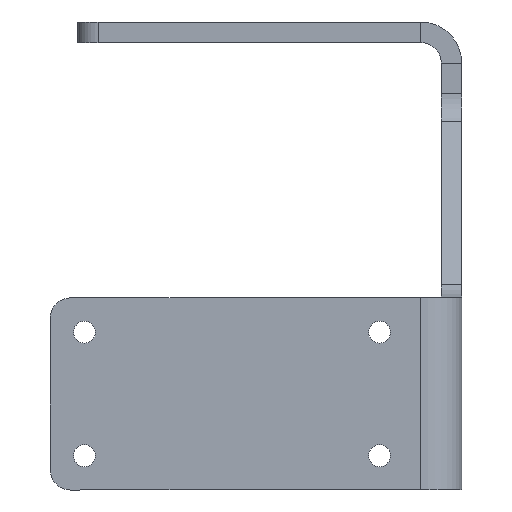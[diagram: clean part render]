
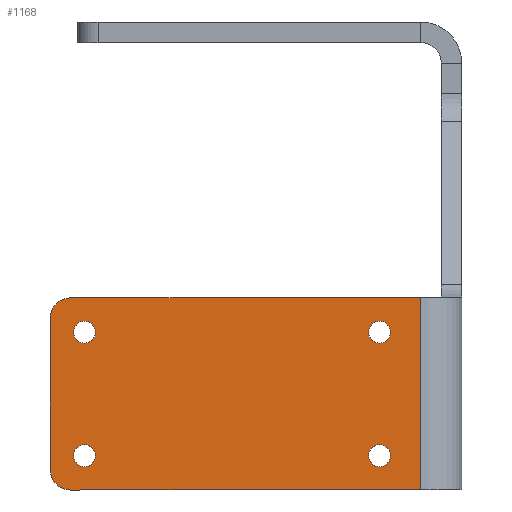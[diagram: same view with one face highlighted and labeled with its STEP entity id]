
A CAD part, front view. The second image highlights one B-rep face of the part: STEP entity #1168.
In plain terms, the highlighted planar face has unit normal (0, -1, 0).
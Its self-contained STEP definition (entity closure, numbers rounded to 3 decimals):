
#14 = DIRECTION ( 'NONE',  ( -1., 0., 0. ) ) ;
#48 = DIRECTION ( 'NONE',  ( 0., 1., 0. ) ) ;
#64 = LINE ( 'NONE', #2875, #1581 ) ;
#142 = AXIS2_PLACEMENT_3D ( 'NONE', #1949, #1640, #1326 ) ;
#156 = ORIENTED_EDGE ( 'NONE', *, *, #2878, .F. ) ;
#178 = CIRCLE ( 'NONE', #1759, 3. ) ;
#193 = ORIENTED_EDGE ( 'NONE', *, *, #1611, .T. ) ;
#202 = AXIS2_PLACEMENT_3D ( 'NONE', #377, #48, #2863 ) ;
#214 = DIRECTION ( 'NONE',  ( 1., 0., 0. ) ) ;
#230 = ORIENTED_EDGE ( 'NONE', *, *, #693, .T. ) ;
#242 = LINE ( 'NONE', #3065, #1194 ) ;
#272 = AXIS2_PLACEMENT_3D ( 'NONE', #1182, #3032, #2709 ) ;
#315 = FACE_BOUND ( 'NONE', #527, .T. ) ;
#319 = CARTESIAN_POINT ( 'NONE',  ( -21.5, -99.825, -60.203 ) ) ;
#327 = EDGE_CURVE ( 'NONE', #2153, #3075, #2723, .T. ) ;
#338 = DIRECTION ( 'NONE',  ( 0., 1., 0. ) ) ;
#377 = CARTESIAN_POINT ( 'NONE',  ( 21.5, -99.825, -60.203 ) ) ;
#389 = VERTEX_POINT ( 'NONE', #1308 ) ;
#393 = CARTESIAN_POINT ( 'NONE',  ( -23.5, -99.825, -40.203 ) ) ;
#404 = FACE_BOUND ( 'NONE', #1809, .T. ) ;
#430 = CIRCLE ( 'NONE', #272, 1.6 ) ;
#492 = ORIENTED_EDGE ( 'NONE', *, *, #2701, .T. ) ;
#527 = EDGE_LOOP ( 'NONE', ( #2860, #193 ) ) ;
#539 = CARTESIAN_POINT ( 'NONE',  ( 30.5, -99.825, -65.203 ) ) ;
#565 = FACE_BOUND ( 'NONE', #3058, .T. ) ;
#648 = AXIS2_PLACEMENT_3D ( 'NONE', #663, #338, #14 ) ;
#663 = CARTESIAN_POINT ( 'NONE',  ( 30.5, -99.825, -65.203 ) ) ;
#668 = CIRCLE ( 'NONE', #1844, 1.6 ) ;
#674 = CIRCLE ( 'NONE', #1052, 1.6 ) ;
#687 = DIRECTION ( 'NONE',  ( -1., 0., 0. ) ) ;
#693 = EDGE_CURVE ( 'NONE', #2904, #698, #2783, .T. ) ;
#698 = VERTEX_POINT ( 'NONE', #1043 ) ;
#805 = FACE_BOUND ( 'NONE', #1220, .T. ) ;
#817 = CARTESIAN_POINT ( 'NONE',  ( -23.1, -99.825, -42.203 ) ) ;
#819 = DIRECTION ( 'NONE',  ( -1., 0., 0. ) ) ;
#826 = ORIENTED_EDGE ( 'NONE', *, *, #2269, .T. ) ;
#828 = CARTESIAN_POINT ( 'NONE',  ( -26.5, -99.825, -62.203 ) ) ;
#854 = CARTESIAN_POINT ( 'NONE',  ( 27.5, -99.825, -65.203 ) ) ;
#863 = LINE ( 'NONE', #539, #1346 ) ;
#896 = CARTESIAN_POINT ( 'NONE',  ( -23.5, -99.825, -62.203 ) ) ;
#946 = AXIS2_PLACEMENT_3D ( 'NONE', #319, #3132, #2819 ) ;
#967 = FACE_OUTER_BOUND ( 'NONE', #2294, .T. ) ;
#968 = ORIENTED_EDGE ( 'NONE', *, *, #2302, .T. ) ;
#973 = ORIENTED_EDGE ( 'NONE', *, *, #2089, .T. ) ;
#978 = VERTEX_POINT ( 'NONE', #854 ) ;
#979 = PLANE ( 'NONE',  #648 ) ;
#1003 = CIRCLE ( 'NONE', #2310, 1.6 ) ;
#1006 = DIRECTION ( 'NONE',  ( 0., 1., 0. ) ) ;
#1043 = CARTESIAN_POINT ( 'NONE',  ( -19.9, -99.825, -42.203 ) ) ;
#1052 = AXIS2_PLACEMENT_3D ( 'NONE', #1648, #1006, #687 ) ;
#1144 = DIRECTION ( 'NONE',  ( 0., 1., 0. ) ) ;
#1168 = ADVANCED_FACE ( 'NONE', ( #404, #565, #315, #805, #967 ), #979, .F. ) ;
#1182 = CARTESIAN_POINT ( 'NONE',  ( -21.5, -99.825, -42.203 ) ) ;
#1183 = VERTEX_POINT ( 'NONE', #1550 ) ;
#1194 = VECTOR ( 'NONE', #2743, 1000. ) ;
#1205 = VERTEX_POINT ( 'NONE', #1472 ) ;
#1220 = EDGE_LOOP ( 'NONE', ( #2876, #2067 ) ) ;
#1308 = CARTESIAN_POINT ( 'NONE',  ( 27.5, -99.825, -37.203 ) ) ;
#1321 = DIRECTION ( 'NONE',  ( -1., 0., 0. ) ) ;
#1326 = DIRECTION ( 'NONE',  ( -1., 0., 0. ) ) ;
#1345 = CARTESIAN_POINT ( 'NONE',  ( -26.5, -99.825, -40.203 ) ) ;
#1346 = VECTOR ( 'NONE', #214, 1000. ) ;
#1472 = CARTESIAN_POINT ( 'NONE',  ( 23.1, -99.825, -42.203 ) ) ;
#1543 = VERTEX_POINT ( 'NONE', #1768 ) ;
#1550 = CARTESIAN_POINT ( 'NONE',  ( -23.5, -99.825, -37.203 ) ) ;
#1581 = VECTOR ( 'NONE', #2564, 1000. ) ;
#1599 = DIRECTION ( 'NONE',  ( -1., 0., 0. ) ) ;
#1611 = EDGE_CURVE ( 'NONE', #1205, #2605, #1003, .T. ) ;
#1620 = VERTEX_POINT ( 'NONE', #828 ) ;
#1633 = AXIS2_PLACEMENT_3D ( 'NONE', #2325, #1997, #1678 ) ;
#1635 = CARTESIAN_POINT ( 'NONE',  ( 30.5, -99.825, -37.203 ) ) ;
#1640 = DIRECTION ( 'NONE',  ( 0., 1., 0. ) ) ;
#1648 = CARTESIAN_POINT ( 'NONE',  ( 21.5, -99.825, -42.203 ) ) ;
#1678 = DIRECTION ( 'NONE',  ( -1., 0., 0. ) ) ;
#1701 = EDGE_CURVE ( 'NONE', #3075, #2153, #2929, .T. ) ;
#1750 = CIRCLE ( 'NONE', #2470, 3. ) ;
#1759 = AXIS2_PLACEMENT_3D ( 'NONE', #896, #2746, #2422 ) ;
#1768 = CARTESIAN_POINT ( 'NONE',  ( 23.1, -99.825, -60.203 ) ) ;
#1781 = VERTEX_POINT ( 'NONE', #1345 ) ;
#1809 = EDGE_LOOP ( 'NONE', ( #1920, #2833 ) ) ;
#1844 = AXIS2_PLACEMENT_3D ( 'NONE', #2103, #1144, #819 ) ;
#1912 = DIRECTION ( 'NONE',  ( 0., -1., 0. ) ) ;
#1920 = ORIENTED_EDGE ( 'NONE', *, *, #327, .T. ) ;
#1949 = CARTESIAN_POINT ( 'NONE',  ( -21.5, -99.825, -60.203 ) ) ;
#1984 = CIRCLE ( 'NONE', #202, 1.6 ) ;
#1997 = DIRECTION ( 'NONE',  ( 0., 1., 0. ) ) ;
#2002 = CARTESIAN_POINT ( 'NONE',  ( 19.9, -99.825, -60.203 ) ) ;
#2067 = ORIENTED_EDGE ( 'NONE', *, *, #2233, .T. ) ;
#2087 = ORIENTED_EDGE ( 'NONE', *, *, #2492, .T. ) ;
#2089 = EDGE_CURVE ( 'NONE', #389, #1183, #2910, .T. ) ;
#2103 = CARTESIAN_POINT ( 'NONE',  ( 21.5, -99.825, -60.203 ) ) ;
#2136 = CARTESIAN_POINT ( 'NONE',  ( -19.9, -99.825, -60.203 ) ) ;
#2153 = VERTEX_POINT ( 'NONE', #2446 ) ;
#2199 = ORIENTED_EDGE ( 'NONE', *, *, #2740, .T. ) ;
#2201 = VECTOR ( 'NONE', #1321, 1000. ) ;
#2221 = VERTEX_POINT ( 'NONE', #2622 ) ;
#2233 = EDGE_CURVE ( 'NONE', #1543, #2788, #1984, .T. ) ;
#2269 = EDGE_CURVE ( 'NONE', #2221, #978, #863, .T. ) ;
#2294 = EDGE_LOOP ( 'NONE', ( #973, #968, #2199, #2087, #826, #156 ) ) ;
#2302 = EDGE_CURVE ( 'NONE', #1183, #1781, #1750, .T. ) ;
#2310 = AXIS2_PLACEMENT_3D ( 'NONE', #3073, #2757, #2429 ) ;
#2325 = CARTESIAN_POINT ( 'NONE',  ( -21.5, -99.825, -42.203 ) ) ;
#2422 = DIRECTION ( 'NONE',  ( -1., 0., 0. ) ) ;
#2429 = DIRECTION ( 'NONE',  ( -1., 0., 0. ) ) ;
#2446 = CARTESIAN_POINT ( 'NONE',  ( -23.1, -99.825, -60.203 ) ) ;
#2470 = AXIS2_PLACEMENT_3D ( 'NONE', #393, #1912, #1599 ) ;
#2492 = EDGE_CURVE ( 'NONE', #1620, #2221, #178, .T. ) ;
#2500 = EDGE_CURVE ( 'NONE', #2788, #1543, #668, .T. ) ;
#2564 = DIRECTION ( 'NONE',  ( 0., 0., -1. ) ) ;
#2605 = VERTEX_POINT ( 'NONE', #2688 ) ;
#2622 = CARTESIAN_POINT ( 'NONE',  ( -23.5, -99.825, -65.203 ) ) ;
#2688 = CARTESIAN_POINT ( 'NONE',  ( 19.9, -99.825, -42.203 ) ) ;
#2701 = EDGE_CURVE ( 'NONE', #698, #2904, #430, .T. ) ;
#2709 = DIRECTION ( 'NONE',  ( -1., 0., 0. ) ) ;
#2723 = CIRCLE ( 'NONE', #946, 1.6 ) ;
#2740 = EDGE_CURVE ( 'NONE', #1781, #1620, #64, .T. ) ;
#2743 = DIRECTION ( 'NONE',  ( 0., 0., -1. ) ) ;
#2746 = DIRECTION ( 'NONE',  ( 0., -1., 0. ) ) ;
#2757 = DIRECTION ( 'NONE',  ( 0., 1., 0. ) ) ;
#2783 = CIRCLE ( 'NONE', #1633, 1.6 ) ;
#2788 = VERTEX_POINT ( 'NONE', #2002 ) ;
#2819 = DIRECTION ( 'NONE',  ( -1., 0., 0. ) ) ;
#2833 = ORIENTED_EDGE ( 'NONE', *, *, #1701, .T. ) ;
#2860 = ORIENTED_EDGE ( 'NONE', *, *, #3027, .T. ) ;
#2863 = DIRECTION ( 'NONE',  ( -1., 0., 0. ) ) ;
#2875 = CARTESIAN_POINT ( 'NONE',  ( -26.5, -99.825, -65.203 ) ) ;
#2876 = ORIENTED_EDGE ( 'NONE', *, *, #2500, .T. ) ;
#2878 = EDGE_CURVE ( 'NONE', #389, #978, #242, .T. ) ;
#2904 = VERTEX_POINT ( 'NONE', #817 ) ;
#2910 = LINE ( 'NONE', #1635, #2201 ) ;
#2929 = CIRCLE ( 'NONE', #142, 1.6 ) ;
#3027 = EDGE_CURVE ( 'NONE', #2605, #1205, #674, .T. ) ;
#3032 = DIRECTION ( 'NONE',  ( 0., 1., 0. ) ) ;
#3058 = EDGE_LOOP ( 'NONE', ( #230, #492 ) ) ;
#3065 = CARTESIAN_POINT ( 'NONE',  ( 27.5, -99.825, -65.203 ) ) ;
#3073 = CARTESIAN_POINT ( 'NONE',  ( 21.5, -99.825, -42.203 ) ) ;
#3075 = VERTEX_POINT ( 'NONE', #2136 ) ;
#3132 = DIRECTION ( 'NONE',  ( 0., 1., 0. ) ) ;
